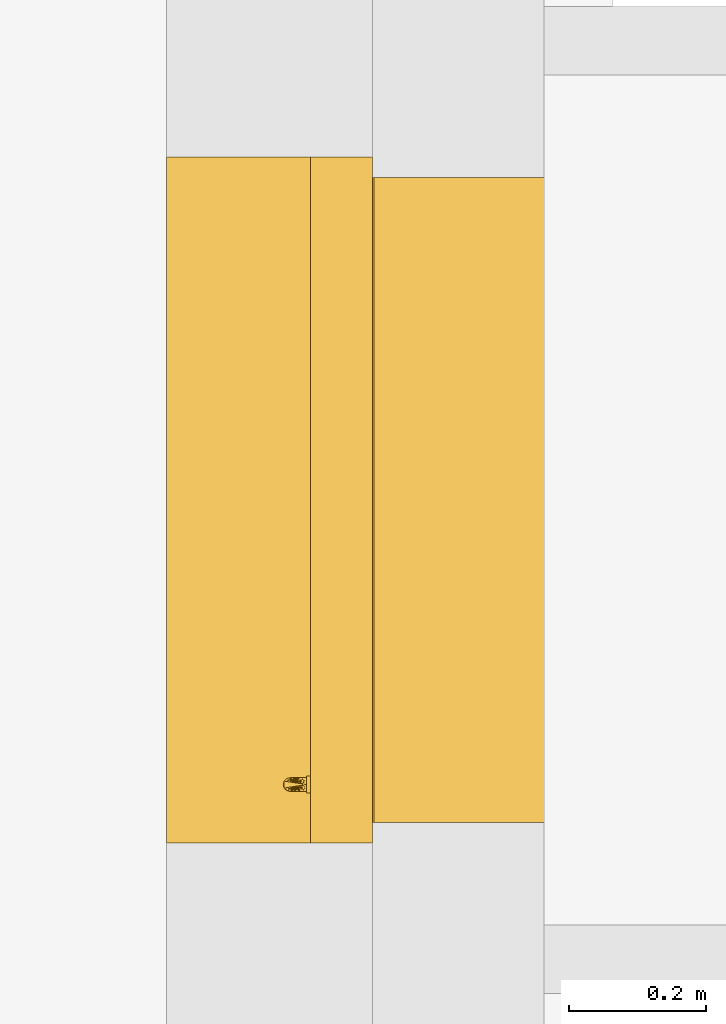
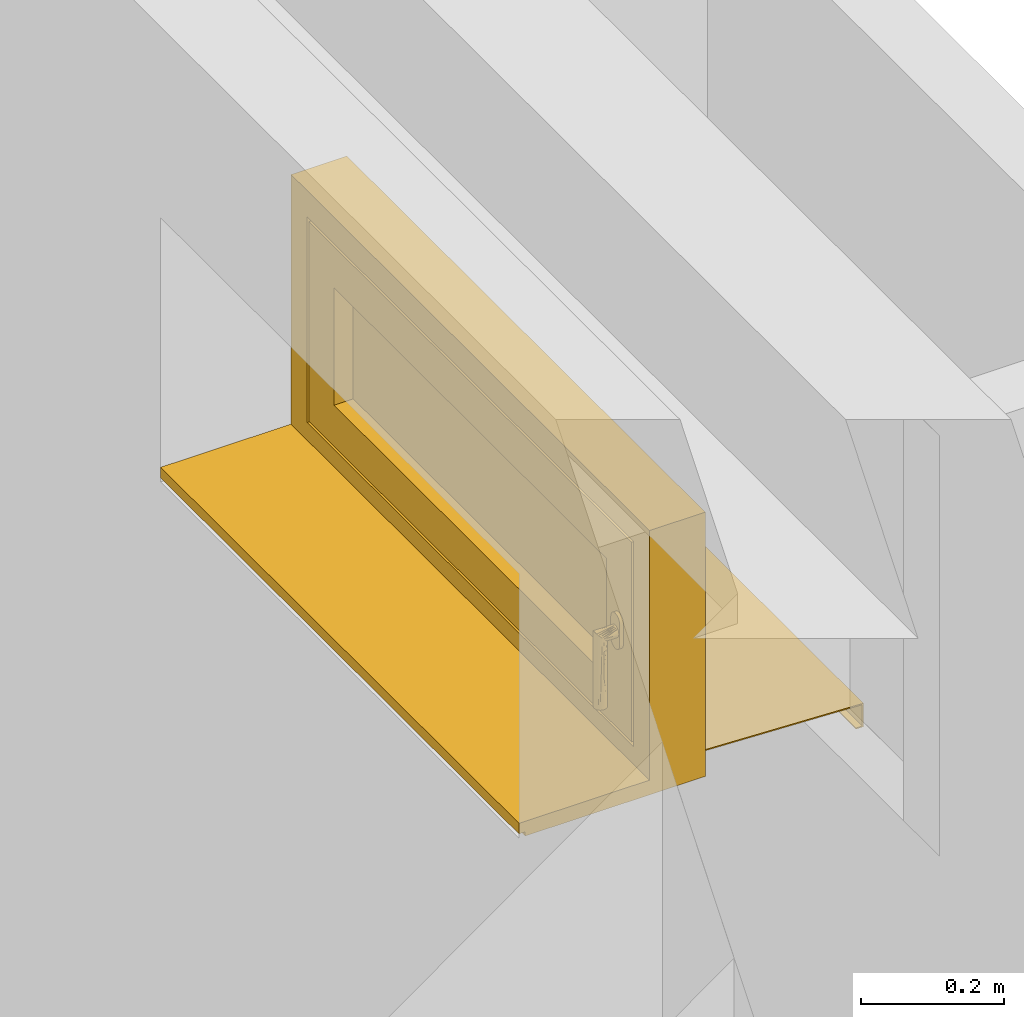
# One storey, part 21 of 22: 1 window.
"""IFC2X3 building model written with IfcOpenShell, lengths in metres."""

from ifc_helpers import new_model, entity, si_unit, converted_unit, derived_unit, direction, frame, origin, origin_2d_with_axis, place, context, subcontext, project, spatial, polyline, rectangle, outline, extrude, faceted_brep, source, transform, mapped, material, material_list, type_object, type_shapes, element, save


model = new_model("IFC2X3")

# Units and contexts
model_context = context("Model", 3, precision=1e-05, world=origin(), true_north=direction((6.123233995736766e-17, 1.0)))
body_context = subcontext(model_context, "Body", "Model", "MODEL_VIEW")
ifc_project = project(units=[si_unit("LENGTHUNIT", "METRE"), si_unit("AREAUNIT", "SQUARE_METRE"), si_unit("VOLUMEUNIT", "CUBIC_METRE"), si_unit("POWERUNIT", "WATT"), derived_unit("USERDEFINED", [(si_unit("MASSUNIT", "GRAM", prefix="KILO"), 1), (si_unit("TIMEUNIT", "SECOND"), -3)]), derived_unit("THERMALRESISTANCEUNIT", [(si_unit("MASSUNIT", "GRAM", prefix="KILO"), -1), (si_unit("TIMEUNIT", "SECOND"), 3), (si_unit("THERMODYNAMICTEMPERATUREUNIT", "KELVIN"), 1)]), derived_unit("USERDEFINED", [(si_unit("MASSUNIT", "GRAM", prefix="KILO"), 1), (si_unit("TIMEUNIT", "SECOND"), -2), (si_unit("THERMODYNAMICTEMPERATUREUNIT", "KELVIN"), -1)]), derived_unit("THERMALTRANSMITTANCEUNIT", [(si_unit("MASSUNIT", "GRAM", prefix="KILO"), 1), (si_unit("TIMEUNIT", "SECOND"), -3), (si_unit("THERMODYNAMICTEMPERATUREUNIT", "KELVIN"), -1)]), converted_unit("PLANEANGLEUNIT", "DEGREE", entity("IfcPlaneAngleMeasure", 0.017453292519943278), si_unit("PLANEANGLEUNIT", "RADIAN"), dimensions=[0, 0, 0, 0, 0, 0, 0]), derived_unit("MOMENTOFINERTIAUNIT", [(si_unit("LENGTHUNIT", "METRE"), 4)])], contexts=[model_context])

# Site, building, storey
site_placement = place(None, origin())
site = spatial("IfcSite", under=ifc_project, at=site_placement, Name="Default", CompositionType="ELEMENT")
building_placement = place(site_placement, origin())
building = spatial("IfcBuilding", under=site, at=building_placement, CompositionType="ELEMENT")
storey_placement = place(building_placement, origin())
storey = spatial("IfcBuildingStorey", under=building, at=storey_placement, Name="Untergeschoss", CompositionType="ELEMENT", Elevation=0.0)

# Window
ifc_material_1 = material(Name="Glas - Isolierverglasung klar")
ifc_material_2 = material(Name="Holz - generisch 140-100-70")
ifc_material_3 = material(Name="Metall - Edelstahl gebürstet")
ifc_material_4 = material(Name="Kunststoff - grau 70-70-70")
ifc_material_list = material_list([ifc_material_1, ifc_material_2, ifc_material_3, ifc_material_4])
window_style = type_object("IfcWindowStyle", Name="FE 1 tlg - DrehKipp:1000 x 450", ConstructionType="NOTDEFINED", OperationType="NOTDEFINED", ParameterTakesPrecedence=False, Sizeable=False, material=ifc_material_list)
shared_shape = source(origin(), body_context, "Body", "SolidModel", [
    extrude(rectangle(XDim=0.04399999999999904, YDim=0.7600000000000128, at=origin_2d_with_axis()), frame((0.5000000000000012, -0.2870000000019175, 0.13000000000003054), z_axis=(0.0, 0.0, 1.0), x_axis=(0.0, -1.0, 0.0)), (0.0, 0.0, 1.0), 0.19999999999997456),
    extrude(outline(polyline([(-0.014333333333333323, -0.07333333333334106), (0.0036666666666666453, -0.07333333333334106), (0.0036666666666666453, -0.06333333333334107), (0.010666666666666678, -0.06333333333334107), (0.010666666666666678, 0.13666666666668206), (-0.014333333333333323, 0.13666666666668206), (-0.014333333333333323, -0.07333333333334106)])), frame((0.0, -0.47666666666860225, 0.010666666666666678), z_axis=(1.0, 0.0, 0.0), x_axis=(0.0, 0.0, -1.0)), (0.0, 0.0, 1.0), 0.999999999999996),
    faceted_brep([(0.9270740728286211, -0.3400000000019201, 0.20926476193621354), (0.9258253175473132, -0.3400000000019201, 0.20624999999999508), (0.9238388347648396, -0.3400000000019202, 0.20366116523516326), (0.9212500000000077, -0.3400000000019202, 0.20167468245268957), (0.9182352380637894, -0.3400000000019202, 0.2004259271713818), (0.9150000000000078, -0.3400000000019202, 0.19999999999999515), (0.9117647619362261, -0.3400000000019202, 0.2004259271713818), (0.9087500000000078, -0.3400000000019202, 0.20167468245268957), (0.9061611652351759, -0.3400000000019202, 0.20366116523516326), (0.9041746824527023, -0.3400000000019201, 0.20624999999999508), (0.9029259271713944, -0.3400000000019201, 0.20926476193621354), (0.9025000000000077, -0.3400000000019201, 0.212499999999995), (0.9025000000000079, -0.34000000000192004, 0.2299999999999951), (0.9025000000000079, -0.34000000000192, 0.24749999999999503), (0.9029259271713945, -0.34000000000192, 0.2507352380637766), (0.9041746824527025, -0.34000000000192, 0.2537499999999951), (0.9061611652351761, -0.34000000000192, 0.25633883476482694), (0.9087500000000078, -0.34000000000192, 0.2583253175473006), (0.9117647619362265, -0.34000000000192, 0.2595740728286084), (0.9150000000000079, -0.34000000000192, 0.259999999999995), (0.9182352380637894, -0.34000000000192, 0.2595740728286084), (0.921250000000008, -0.34000000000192, 0.2583253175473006), (0.9238388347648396, -0.34000000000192, 0.25633883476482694), (0.9258253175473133, -0.34000000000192, 0.2537499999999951), (0.9270740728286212, -0.34000000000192, 0.2507352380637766), (0.9275000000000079, -0.34000000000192, 0.24749999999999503), (0.9275000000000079, -0.34000000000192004, 0.2299999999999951), (0.9275000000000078, -0.3400000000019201, 0.212499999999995), (0.9246592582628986, -0.37258819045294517, 0.23258819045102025), (0.9200000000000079, -0.34600000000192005, 0.23866025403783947), (0.9236602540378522, -0.37500000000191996, 0.23499999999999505), (0.9175881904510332, -0.34600000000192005, 0.23965925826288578), (0.9220710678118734, -0.3770710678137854, 0.23707106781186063), (0.9175881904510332, -0.37965925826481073, 0.23965925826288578), (0.9200000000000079, -0.3786602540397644, 0.23866025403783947), (0.9100000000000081, -0.3786602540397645, 0.23866025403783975), (0.9124118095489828, -0.3796592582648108, 0.23965925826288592), (0.915000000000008, -0.38000000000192, 0.23999999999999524), (0.915000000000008, -0.34600000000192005, 0.2399999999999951), (0.9246592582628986, -0.34600000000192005, 0.23258819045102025), (0.9250000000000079, -0.37000000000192, 0.2299999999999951), (0.9250000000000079, -0.36707108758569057, 0.2299999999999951), (0.9250000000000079, -0.364142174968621, 0.2299999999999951), (0.9250000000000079, -0.3582843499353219, 0.2299999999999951), (0.9250000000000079, -0.34600000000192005, 0.2299999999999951), (0.9236602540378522, -0.34600000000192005, 0.23499999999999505), (0.9220710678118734, -0.34600000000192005, 0.2370710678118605), (0.9079289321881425, -0.37707106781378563, 0.23707106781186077), (0.9053407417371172, -0.37258819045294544, 0.23258819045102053), (0.9063397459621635, -0.37500000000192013, 0.2349999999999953), (0.9100000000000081, -0.34600000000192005, 0.2386602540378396), (0.9124118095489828, -0.34600000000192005, 0.23965925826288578), (0.9050000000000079, -0.37000000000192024, 0.22999999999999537), (0.9079289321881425, -0.34600000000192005, 0.23707106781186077), (0.9063397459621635, -0.34600000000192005, 0.2349999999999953), (0.9053407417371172, -0.34600000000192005, 0.23258819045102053), (0.9050000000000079, -0.34600000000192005, 0.22999999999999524), (0.9050000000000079, -0.3582843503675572, 0.22999999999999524), (0.9050000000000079, -0.36414217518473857, 0.2299999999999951), (0.9050000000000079, -0.36707108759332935, 0.2299999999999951), (0.9063397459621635, -0.36500000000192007, 0.22499999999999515), (0.9079289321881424, -0.3629289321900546, 0.22292893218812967), (0.9053407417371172, -0.36741180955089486, 0.22741180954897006), (0.9053407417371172, -0.34600000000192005, 0.22741180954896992), (0.9236602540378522, -0.36500000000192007, 0.22499999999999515), (0.9246592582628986, -0.36741180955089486, 0.22741180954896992), (0.9246592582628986, -0.34600000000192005, 0.22741180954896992), (0.9079289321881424, -0.3460000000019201, 0.22292893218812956), (0.9124118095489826, -0.36034074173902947, 0.22034074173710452), (0.9100000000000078, -0.36133974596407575, 0.22133974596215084), (0.9063397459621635, -0.3460000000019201, 0.22499999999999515), (0.9100000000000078, -0.3460000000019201, 0.2213397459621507), (0.9124118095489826, -0.3460000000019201, 0.22034074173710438), (0.9150000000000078, -0.3460000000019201, 0.21999999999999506), (0.9150000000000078, -0.3600000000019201, 0.2199999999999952), (0.9200000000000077, -0.3613397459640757, 0.2213397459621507), (0.9220710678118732, -0.3629289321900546, 0.22292893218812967), (0.9220710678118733, -0.3460000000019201, 0.22292893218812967), (0.9175881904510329, -0.36034074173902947, 0.22034074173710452), (0.917588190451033, -0.3460000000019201, 0.22034074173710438), (0.9200000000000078, -0.3460000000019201, 0.2213397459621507), (0.9236602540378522, -0.3460000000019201, 0.22499999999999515), (0.9236602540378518, -0.36500000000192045, 0.1099999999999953), (0.9246592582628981, -0.36741180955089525, 0.1099999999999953), (0.9250000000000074, -0.3700000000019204, 0.1099999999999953), (0.9246592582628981, -0.37258819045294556, 0.1099999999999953), (0.9236602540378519, -0.37500000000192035, 0.1099999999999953), (0.9220710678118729, -0.3770710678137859, 0.1099999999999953), (0.9200000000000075, -0.3786602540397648, 0.1099999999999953), (0.9175881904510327, -0.3796592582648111, 0.1099999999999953), (0.9150000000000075, -0.38000000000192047, 0.1099999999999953), (0.9124118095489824, -0.3796592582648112, 0.1099999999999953), (0.9100000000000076, -0.37866025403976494, 0.1099999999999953), (0.9079289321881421, -0.377071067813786, 0.1099999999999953), (0.9063397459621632, -0.3750000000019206, 0.1099999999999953), (0.9053407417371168, -0.3725881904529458, 0.1099999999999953), (0.9050000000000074, -0.37000000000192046, 0.1099999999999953), (0.9053407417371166, -0.36741180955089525, 0.1099999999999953), (0.9063397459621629, -0.36500000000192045, 0.1099999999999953), (0.907928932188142, -0.362928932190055, 0.1099999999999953), (0.9100000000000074, -0.3613397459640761, 0.1099999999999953), (0.9124118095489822, -0.3603407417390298, 0.1099999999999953), (0.9150000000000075, -0.36000000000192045, 0.1099999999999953), (0.9175881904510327, -0.3603407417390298, 0.1099999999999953), (0.9200000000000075, -0.36133974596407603, 0.1099999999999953), (0.9220710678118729, -0.362928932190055, 0.1099999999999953), (0.9250000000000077, -0.37000000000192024, 0.17479130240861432), (0.9250000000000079, -0.3700000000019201, 0.202395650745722), (0.9050000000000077, -0.3700000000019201, 0.20239565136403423), (0.9050000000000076, -0.3700000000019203, 0.1747913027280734), (0.9061611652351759, -0.34600000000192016, 0.20366116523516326), (0.9041746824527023, -0.34600000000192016, 0.20624999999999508), (0.9087500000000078, -0.34600000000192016, 0.2016746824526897), (0.9117647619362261, -0.34600000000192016, 0.2004259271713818), (0.9150000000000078, -0.34600000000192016, 0.19999999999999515), (0.9182352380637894, -0.34600000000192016, 0.2004259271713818), (0.9212500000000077, -0.34600000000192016, 0.2016746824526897), (0.9238388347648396, -0.34600000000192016, 0.20366116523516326), (0.9258253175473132, -0.34600000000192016, 0.20624999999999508), (0.9270740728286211, -0.3460000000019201, 0.20926476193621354), (0.9275000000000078, -0.3460000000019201, 0.21249999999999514), (0.9275000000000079, -0.34600000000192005, 0.2299999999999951), (0.9275000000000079, -0.34600000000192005, 0.24749999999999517), (0.9270740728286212, -0.34600000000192, 0.2507352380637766), (0.9258253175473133, -0.34600000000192, 0.2537499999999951), (0.9238388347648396, -0.34600000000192, 0.25633883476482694), (0.921250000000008, -0.34600000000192, 0.2583253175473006), (0.9182352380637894, -0.34600000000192, 0.2595740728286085), (0.9150000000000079, -0.34600000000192, 0.2599999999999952), (0.9117647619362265, -0.34600000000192, 0.2595740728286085), (0.9087500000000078, -0.34600000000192, 0.2583253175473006), (0.9061611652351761, -0.34600000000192, 0.25633883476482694), (0.9041746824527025, -0.34600000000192, 0.2537499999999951), (0.9029259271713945, -0.34600000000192, 0.2507352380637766), (0.9025000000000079, -0.34600000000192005, 0.24749999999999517), (0.9025000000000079, -0.34600000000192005, 0.22999999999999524), (0.9025000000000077, -0.3460000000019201, 0.21249999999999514), (0.9029259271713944, -0.3460000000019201, 0.20926476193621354)], [[[0, 1, 2, 3, 4, 5, 6, 7, 8, 9, 10, 11, 12, 13, 14, 15, 16, 17, 18, 19, 20, 21, 22, 23, 24, 25, 26, 27]], [[28, 29, 30]], [[30, 31, 32]], [[33, 34, 35, 36, 37]], [[38, 32, 31]], [[34, 32, 38]], [[39, 40, 41, 42, 43, 44]], [[45, 40, 39]], [[40, 45, 46]], [[29, 28, 46]], [[46, 28, 40]], [[29, 31, 30]], [[38, 35, 34]], [[35, 38, 47]], [[48, 49, 50]], [[51, 49, 47]], [[52, 48, 53]], [[47, 38, 51]], [[49, 51, 50]], [[52, 53, 54]], [[55, 56, 57, 58, 59, 52]], [[55, 52, 54]], [[53, 48, 50]], [[60, 57, 61]], [[59, 58, 62, 52]], [[56, 63, 57]], [[64, 43, 42]], [[41, 40, 65, 42]], [[44, 43, 66]], [[67, 68, 69]], [[67, 69, 57]], [[69, 61, 57]], [[63, 70, 57]], [[67, 71, 68]], [[67, 57, 70]], [[72, 68, 71]], [[72, 73, 74, 68]], [[75, 43, 76]], [[77, 75, 78]], [[65, 64, 42]], [[76, 43, 64]], [[79, 78, 74, 73]], [[78, 79, 80]], [[62, 58, 60]], [[43, 75, 77]], [[60, 58, 57]], [[81, 66, 43]], [[77, 81, 43]], [[77, 78, 80]], [[82, 83, 84, 85, 86, 87, 88, 89, 90, 91, 92, 93, 94, 95, 96, 97, 98, 99, 100, 101, 102, 103, 104, 105]], [[85, 84, 106, 107, 40]], [[85, 40, 86]], [[34, 33, 89, 88]], [[87, 86, 28]], [[88, 87, 32, 34]], [[28, 30, 87]], [[86, 40, 28]], [[87, 30, 32]], [[33, 37, 90, 89]], [[47, 93, 92, 35]], [[35, 92, 91, 36]], [[95, 52, 108, 109, 96]], [[52, 95, 94]], [[48, 94, 93]], [[90, 37, 36, 91]], [[47, 49, 93]], [[49, 48, 93]], [[48, 52, 94]], [[99, 98, 109]], [[97, 109, 98]], [[109, 68, 101]], [[101, 100, 109]], [[100, 99, 109]], [[96, 109, 97]], [[108, 52, 62]], [[108, 62, 60]], [[102, 101, 68, 74]], [[68, 109, 69]], [[61, 69, 109]], [[60, 61, 108]], [[65, 107, 64]], [[108, 61, 109]], [[104, 106, 105]], [[103, 106, 104]], [[83, 106, 84]], [[107, 65, 40]], [[82, 106, 83]], [[105, 106, 82]], [[103, 102, 74, 78]], [[78, 106, 103]], [[75, 76, 106]], [[76, 107, 106]], [[106, 78, 75]], [[76, 64, 107]], [[110, 73, 111]], [[112, 73, 110]], [[112, 113, 73]], [[114, 73, 113]], [[115, 73, 114]], [[115, 116, 73]], [[117, 73, 116]], [[117, 118, 73]], [[118, 79, 73]], [[79, 118, 119]], [[119, 120, 79]], [[120, 80, 79]], [[120, 77, 80]], [[77, 120, 81]], [[81, 120, 121]], [[66, 81, 121]], [[44, 66, 121]], [[39, 44, 121]], [[45, 39, 121]], [[45, 121, 122]], [[122, 46, 45]], [[122, 29, 46]], [[122, 31, 29]], [[122, 123, 31]], [[124, 31, 123]], [[124, 38, 31]], [[125, 38, 124]], [[38, 125, 126]], [[38, 126, 127]], [[127, 128, 38]], [[128, 129, 38]], [[38, 129, 130]], [[130, 131, 38]], [[132, 38, 131]], [[38, 132, 51]], [[51, 132, 133]], [[134, 51, 133]], [[134, 50, 51]], [[134, 53, 50]], [[134, 54, 53]], [[134, 135, 54]], [[55, 54, 135]], [[135, 56, 55]], [[63, 56, 135]], [[70, 63, 135]], [[136, 70, 135]], [[136, 67, 70]], [[136, 71, 67]], [[71, 136, 72]], [[72, 136, 137]], [[111, 72, 137]], [[111, 73, 72]], [[13, 134, 133, 14]], [[14, 133, 132, 15]], [[17, 16, 131, 130]], [[131, 16, 15, 132]], [[18, 17, 130, 129]], [[18, 129, 128, 19]], [[19, 128, 127, 20]], [[20, 127, 126, 21]], [[23, 22, 125, 124]], [[125, 22, 21, 126]], [[24, 23, 124, 123]], [[24, 123, 122, 25]], [[26, 25, 122, 121, 120, 27]], [[27, 120, 119, 0]], [[0, 119, 118, 1]], [[3, 2, 117, 116]], [[117, 2, 1, 118]], [[4, 3, 116, 115]], [[4, 115, 114, 5]], [[5, 114, 113, 6]], [[6, 113, 112, 7]], [[9, 8, 110, 111]], [[110, 8, 7, 112]], [[10, 9, 111, 137]], [[10, 137, 136, 11]], [[12, 11, 136, 135, 134, 13]]]),
    faceted_brep([(0.1200000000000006, -0.34000000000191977, 0.3299999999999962), (0.11999999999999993, -0.34000000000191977, 0.12999999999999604), (0.12000000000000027, -0.2500000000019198, 0.1299999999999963), (0.12000000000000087, -0.2500000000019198, 0.3299999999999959), (0.8799999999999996, -0.2500000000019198, 0.129999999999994), (0.8800000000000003, -0.2500000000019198, 0.32999999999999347), (0.09000000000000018, -0.2500000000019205, 0.0999999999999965), (0.090000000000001, -0.2500000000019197, 0.359999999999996), (0.9100000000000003, -0.2500000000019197, 0.35999999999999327), (0.9099999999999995, -0.2500000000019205, 0.09999999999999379), (0.8799999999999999, -0.34000000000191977, 0.12999999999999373), (0.8800000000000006, -0.34000000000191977, 0.32999999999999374), (0.050000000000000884, -0.34000000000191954, 0.3999999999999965), (0.0499999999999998, -0.34000000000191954, 0.059999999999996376), (0.9499999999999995, -0.34000000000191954, 0.0599999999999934), (0.9500000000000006, -0.34000000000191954, 0.3999999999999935), (0.05000000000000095, -0.3250000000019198, 0.3999999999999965), (0.04999999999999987, -0.3250000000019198, 0.059999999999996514), (0.9499999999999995, -0.3250000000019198, 0.05999999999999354), (0.9500000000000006, -0.3250000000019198, 0.3999999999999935), (0.06500000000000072, -0.32500000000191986, 0.3849999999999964), (0.06499999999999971, -0.32500000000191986, 0.07499999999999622), (0.9349999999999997, -0.32500000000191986, 0.0749999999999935), (0.9350000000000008, -0.32500000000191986, 0.3849999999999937), (0.0650000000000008, -0.2950000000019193, 0.3849999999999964), (0.06499999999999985, -0.2950000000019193, 0.07499999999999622), (0.9349999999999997, -0.2950000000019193, 0.07499999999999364), (0.9350000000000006, -0.2950000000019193, 0.3849999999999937), (0.0750000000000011, -0.29500000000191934, 0.37499999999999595), (0.07500000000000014, -0.29500000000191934, 0.08499999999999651), (0.9249999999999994, -0.29500000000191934, 0.08499999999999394), (0.9250000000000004, -0.29500000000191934, 0.3749999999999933), (0.07500000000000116, -0.26500000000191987, 0.37499999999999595), (0.07500000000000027, -0.26500000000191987, 0.08499999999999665), (0.9249999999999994, -0.26500000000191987, 0.08499999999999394), (0.9250000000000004, -0.26500000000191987, 0.3749999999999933), (0.09000000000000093, -0.2650000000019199, 0.35999999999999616), (0.09000000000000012, -0.2650000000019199, 0.0999999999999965), (0.9099999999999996, -0.2650000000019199, 0.09999999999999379), (0.9100000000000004, -0.2650000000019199, 0.35999999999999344)], [[[0, 1, 2, 3]], [[3, 2, 4, 5], [6, 7, 8, 9]], [[1, 10, 4, 2]], [[1, 0, 11, 10], [12, 13, 14, 15]], [[16, 17, 13, 12]], [[17, 18, 14, 13]], [[17, 16, 19, 18], [20, 21, 22, 23]], [[24, 25, 21, 20]], [[25, 26, 22, 21]], [[25, 24, 27, 26], [28, 29, 30, 31]], [[32, 33, 29, 28]], [[33, 34, 30, 29]], [[33, 32, 35, 34], [36, 37, 38, 39]], [[7, 6, 37, 36]], [[6, 9, 38, 37]], [[10, 11, 5, 4]], [[18, 19, 15, 14]], [[26, 27, 23, 22]], [[34, 35, 31, 30]], [[9, 8, 39, 38]], [[11, 0, 3, 5]], [[19, 16, 12, 15]], [[27, 24, 20, 23]], [[35, 32, 28, 31]], [[8, 7, 36, 39]]], outer=[[True], [False, True], [True], [False, True], [True], [True], [True, False], [True], [True], [True, False], [True], [True], [True, False], [True], [True], [True], [True], [True], [True], [True], [True], [True], [True], [True], [True]]),
    faceted_brep([(0.03000000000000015, 0.021999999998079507, 0.011120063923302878), (0.03000000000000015, 0.0, 0.012000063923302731), (0.029999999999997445, -0.24800000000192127, 0.021920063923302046), (0.9699999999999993, -0.24800000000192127, 0.021920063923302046), (0.9699999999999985, 0.0, 0.012000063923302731), (0.9699999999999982, 0.021999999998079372, 0.011120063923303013), (0.03000000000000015, 0.021999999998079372, -0.028879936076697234), (0.9699999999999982, 0.021999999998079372, -0.02887993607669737), (0.03000000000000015, 0.009999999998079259, -0.02887993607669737), (0.9699999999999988, 0.009999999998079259, -0.02887993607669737), (0.03000000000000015, 0.009999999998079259, -0.026879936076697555), (0.9699999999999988, 0.009999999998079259, -0.02687993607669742), (0.03000000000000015, 0.019999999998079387, -0.02687993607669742), (0.9699999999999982, 0.019999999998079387, -0.02687993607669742), (0.03000000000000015, 0.019999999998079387, 0.00920000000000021), (0.9699999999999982, 0.019999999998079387, 0.00920000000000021), (0.03000000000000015, 0.0, 0.010000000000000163), (0.9699999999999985, 0.0, 0.010000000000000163), (0.9699999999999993, -0.25000000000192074, 0.02000000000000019), (0.029999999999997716, -0.2500000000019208, 0.02000000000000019), (0.029999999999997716, -0.25000000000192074, 0.040000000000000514), (0.9699999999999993, -0.25000000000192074, 0.040000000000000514), (0.029999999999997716, -0.24800000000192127, 0.040000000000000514), (0.9699999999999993, -0.24800000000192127, 0.040000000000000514)], [[[0, 1, 2, 3, 4, 5]], [[6, 0, 5, 7]], [[8, 6, 7, 9]], [[10, 8, 9, 11]], [[12, 10, 11, 13]], [[14, 12, 13, 15]], [[16, 14, 15, 17, 18, 19]], [[20, 19, 18, 21]], [[22, 20, 21, 23]], [[2, 22, 23, 3]], [[16, 1, 0, 6, 8, 10, 12, 14]], [[17, 4, 3, 23, 21, 18]], [[1, 16, 19, 20, 22, 2]], [[4, 17, 15, 13, 11, 9, 7, 5]]]),
    faceted_brep([(1.0, -0.2500000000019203, 0.0), (1.0, -0.3400000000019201, 0.0), (0.0, -0.3400000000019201, 0.0), (0.0, -0.2500000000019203, 0.0), (1.0, -0.2500000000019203, 0.44999999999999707), (1.0, -0.3400000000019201, 0.44999999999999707), (0.9549999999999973, -0.3400000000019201, 0.40499999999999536), (0.9549999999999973, -0.3400000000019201, 0.05500000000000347), (0.0450000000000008, -0.3400000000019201, 0.05500000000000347), (0.0450000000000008, -0.3400000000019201, 0.40499999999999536), (0.0, -0.3400000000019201, 0.44999999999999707), (0.0, -0.2500000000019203, 0.44999999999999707), (0.9149999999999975, -0.2500000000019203, 0.09500000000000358), (0.9149999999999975, -0.2500000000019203, 0.3649999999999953), (0.08500000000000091, -0.2500000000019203, 0.3649999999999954), (0.08500000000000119, -0.2500000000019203, 0.09500000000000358), (0.9149999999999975, -0.2650000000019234, 0.09500000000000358), (0.9149999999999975, -0.2650000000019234, 0.3649999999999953), (0.08500000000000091, -0.2650000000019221, 0.09500000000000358), (0.08500000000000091, -0.2650000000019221, 0.3649999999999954), (0.9549999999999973, -0.32500000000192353, 0.40499999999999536), (0.9549999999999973, -0.32500000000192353, 0.05500000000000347), (0.0450000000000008, -0.32500000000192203, 0.05500000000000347), (0.0450000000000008, -0.32500000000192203, 0.40499999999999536), (0.9399999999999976, -0.3250000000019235, 0.3899999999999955), (0.9399999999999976, -0.3250000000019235, 0.07000000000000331), (0.060000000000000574, -0.32500000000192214, 0.07000000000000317), (0.060000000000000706, -0.32500000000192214, 0.3899999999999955), (0.9399999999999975, -0.2950000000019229, 0.07000000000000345), (0.9399999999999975, -0.2950000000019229, 0.38999999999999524), (0.060000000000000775, -0.2950000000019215, 0.3899999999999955), (0.060000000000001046, -0.2950000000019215, 0.07000000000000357), (0.9299999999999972, -0.2950000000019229, 0.3799999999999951), (0.9299999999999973, -0.2950000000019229, 0.08000000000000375), (0.070000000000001, -0.2950000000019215, 0.08000000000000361), (0.07000000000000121, -0.2950000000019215, 0.3799999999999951), (0.9299999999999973, -0.2650000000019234, 0.08000000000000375), (0.9299999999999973, -0.2650000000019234, 0.3799999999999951), (0.070000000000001, -0.2650000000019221, 0.3799999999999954), (0.07000000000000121, -0.2650000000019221, 0.08000000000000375)], [[[0, 1, 2, 3]], [[4, 5, 1, 0]], [[6, 7, 8, 9], [5, 10, 2, 1]], [[10, 11, 3, 2]], [[12, 13, 14, 15], [11, 4, 0, 3]], [[12, 16, 17, 13]], [[18, 15, 14, 19]], [[16, 12, 15, 18]], [[20, 21, 7, 6]], [[7, 21, 22, 8]], [[8, 22, 23, 9]], [[21, 20, 23, 22], [24, 25, 26, 27]], [[28, 29, 30, 31], [32, 33, 34, 35]], [[29, 28, 25, 24]], [[25, 28, 31, 26]], [[17, 16, 18, 19], [36, 37, 38, 39]], [[37, 36, 33, 32]], [[33, 36, 39, 34]], [[26, 31, 30, 27]], [[34, 39, 38, 35]], [[4, 11, 10, 5]], [[20, 6, 9, 23]], [[29, 24, 27, 30]], [[37, 32, 35, 38]], [[13, 17, 19, 14]]], outer=[[True], [True], [False, True], [True], [False, True], [True], [True], [True], [True], [True], [True], [True, False], [True, False], [True], [True], [False, True], [True], [True], [True], [True], [True], [True], [True], [True], [True]]),
])
type_shapes(window_style, [shared_shape])
window_placement = place(storey_placement, frame((38.626720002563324, 24.682272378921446, 1.8250000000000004), z_axis=(0.0, 0.0, 1.0), x_axis=(0.0, -1.0, 0.0)))
element("IfcWindow", 1, at=window_placement, inside=storey, type_object=window_style, material=ifc_material_list, Name="FE 1 tlg - DrehKipp:1000 x 450", ObjectType="FE 1 tlg - DrehKipp:1000 x 450", OverallHeight=1.3000000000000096, OverallWidth=0.999999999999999, context=body_context, shape_type="MappedRepresentation", body=[
    mapped(shared_shape, transform((0.0, 0.0, 0.0), scale=1.0)),
])

save(model, "model.ifc")
